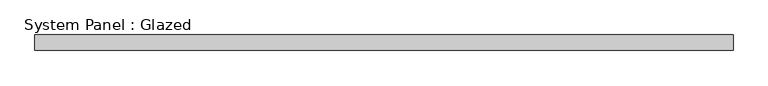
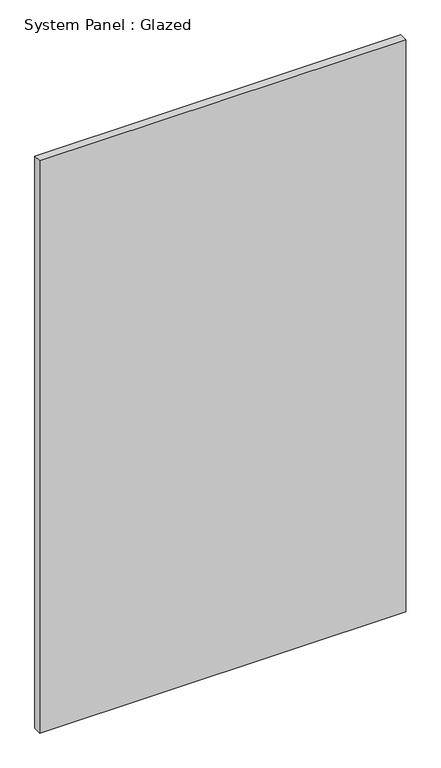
"""IFC4 building model written with IfcOpenShell, lengths in millimetres: plate geometry, System Panel : Glazed."""

from ifc_helpers import new_model, si_unit, origin, origin_with_axes, place, context, project, spatial, polyline, outline, extrude, source, transform, mapped, element, save


def system_panel_glazed_8cd55946(model_context):
    return source(origin(), model_context, "Body", "SweptSolid", [
        extrude(outline(polyline([(560.9875, -49.5), (-560.9875, -49.5), (-560.9875, -24.5), (560.9875, -24.5), (560.9875, -49.5)])), origin_with_axes(), (0.0, 0.0, 1.0), 1854.4),
    ])


if __name__ == "__main__":
    model = new_model("IFC4")
    model_context = context("Model", 3, world=origin())
    ifc_project = project(units=[si_unit("LENGTHUNIT", "METRE", prefix="MILLI")], contexts=[model_context])
    site = spatial("IfcSite", under=ifc_project)
    building = spatial("IfcBuilding", under=site)
    placement = place(None, origin())
    system_panel_glazed_shape = system_panel_glazed_8cd55946(model_context)
    element("IfcPlate", 1, ObjectType="System Panel : Glazed", at=placement, inside=building, context=model_context, shape_type="MappedRepresentation", body=[
        mapped(system_panel_glazed_shape, transform((0.0, 0.0, 0.0), x_axis=(1.0, 0.0, 0.0), y_axis=(0.0, 1.0, 0.0), z_axis=(0.0, 0.0, 1.0))),
    ])
    save(model, "model.ifc")
